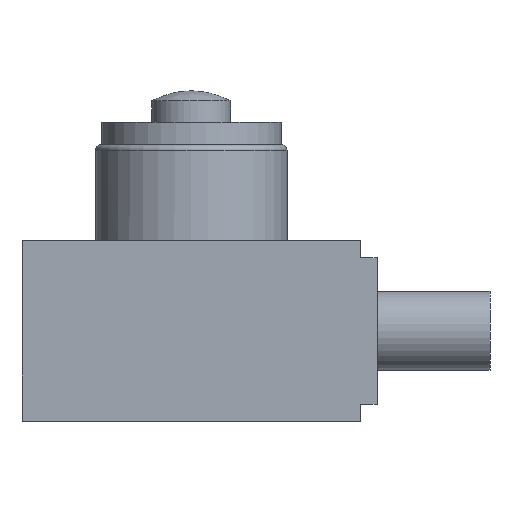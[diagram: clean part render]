
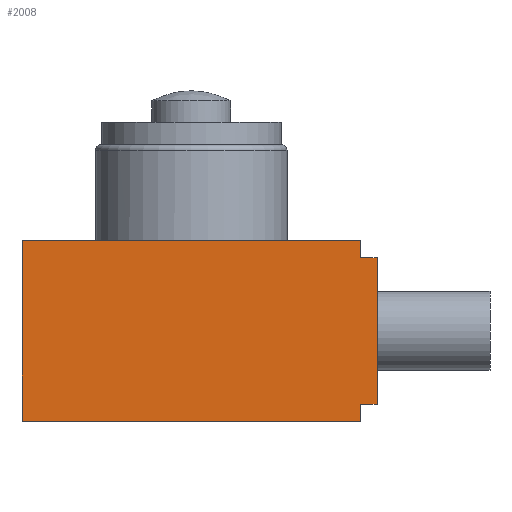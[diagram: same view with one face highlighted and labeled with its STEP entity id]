
A CAD part, front view. The second image highlights one B-rep face of the part: STEP entity #2008.
In plain terms, the highlighted planar face has unit normal (0, -1, 0) as drawn and (0, 0, -1) by its records, which use the part's own axes.
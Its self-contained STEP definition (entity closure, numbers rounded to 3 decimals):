
#180=LINE('',#3159,#352);
#184=LINE('',#3170,#356);
#192=LINE('',#3185,#364);
#224=LINE('',#3288,#396);
#240=LINE('',#3333,#412);
#256=LINE('',#3366,#428);
#259=LINE('',#3371,#431);
#260=LINE('',#3373,#432);
#352=VECTOR('',#2589,13.);
#356=VECTOR('',#2597,1.5);
#364=VECTOR('',#2605,1.5);
#396=VECTOR('',#2709,30.);
#412=VECTOR('',#2753,16.);
#428=VECTOR('',#2791,30.);
#431=VECTOR('',#2798,1.5);
#432=VECTOR('',#2801,1.5);
#498=PLANE('',#2217);
#652=FACE_OUTER_BOUND('',#802,.T.);
#802=EDGE_LOOP('',(#1841,#1842,#1843,#1844,#1845,#1846,#1847,#1848));
#1001=VERTEX_POINT('',#3156);
#1002=VERTEX_POINT('',#3158);
#1004=VERTEX_POINT('',#3163);
#1006=VERTEX_POINT('',#3167);
#1007=VERTEX_POINT('',#3169);
#1014=VERTEX_POINT('',#3183);
#1049=VERTEX_POINT('',#3286);
#1064=VERTEX_POINT('',#3331);
#1226=EDGE_CURVE('',#1002,#1001,#180,.T.);
#1231=EDGE_CURVE('',#1007,#1006,#184,.T.);
#1239=EDGE_CURVE('',#1004,#1014,#192,.T.);
#1288=EDGE_CURVE('',#1014,#1049,#224,.T.);
#1310=EDGE_CURVE('',#1064,#1049,#240,.T.);
#1327=EDGE_CURVE('',#1064,#1007,#256,.T.);
#1330=EDGE_CURVE('',#1006,#1002,#259,.T.);
#1331=EDGE_CURVE('',#1004,#1001,#260,.T.);
#1841=ORIENTED_EDGE('',*,*,#1226,.T.);
#1842=ORIENTED_EDGE('',*,*,#1331,.F.);
#1843=ORIENTED_EDGE('',*,*,#1239,.T.);
#1844=ORIENTED_EDGE('',*,*,#1288,.T.);
#1845=ORIENTED_EDGE('',*,*,#1310,.F.);
#1846=ORIENTED_EDGE('',*,*,#1327,.T.);
#1847=ORIENTED_EDGE('',*,*,#1231,.T.);
#1848=ORIENTED_EDGE('',*,*,#1330,.T.);
#2008=ADVANCED_FACE('',(#652),#498,.T.);
#2217=AXIS2_PLACEMENT_3D('',#3372,#2799,#2800);
#2589=DIRECTION('',(0.,-1.,0.));
#2597=DIRECTION('',(0.,-1.,0.));
#2605=DIRECTION('',(0.,-1.,0.));
#2709=DIRECTION('',(-1.,0.,0.));
#2753=DIRECTION('',(0.,-1.,0.));
#2791=DIRECTION('',(1.,0.,0.));
#2798=DIRECTION('',(1.,0.,0.));
#2799=DIRECTION('center_axis',(0.,0.,-1.));
#2800=DIRECTION('ref_axis',(-1.,0.,0.));
#2801=DIRECTION('',(1.,0.,0.));
#3156=CARTESIAN_POINT('',(16.5,-14.5,-40.));
#3158=CARTESIAN_POINT('',(16.5,-1.5,-40.));
#3159=CARTESIAN_POINT('',(16.5,-1.5,-40.));
#3163=CARTESIAN_POINT('',(15.,-14.5,-40.));
#3167=CARTESIAN_POINT('',(15.,-1.5,-40.));
#3169=CARTESIAN_POINT('',(15.,0.,-40.));
#3170=CARTESIAN_POINT('',(15.,0.,-40.));
#3183=CARTESIAN_POINT('',(15.,-16.,-40.));
#3185=CARTESIAN_POINT('',(15.,-14.5,-40.));
#3286=CARTESIAN_POINT('',(-15.,-16.,-40.));
#3288=CARTESIAN_POINT('',(15.,-16.,-40.));
#3331=CARTESIAN_POINT('',(-15.,0.,-40.));
#3333=CARTESIAN_POINT('',(-15.,0.,-40.));
#3366=CARTESIAN_POINT('',(-15.,0.,-40.));
#3371=CARTESIAN_POINT('',(15.,-1.5,-40.));
#3372=CARTESIAN_POINT('Origin',(15.,-1.5,-40.));
#3373=CARTESIAN_POINT('',(15.,-14.5,-40.));
